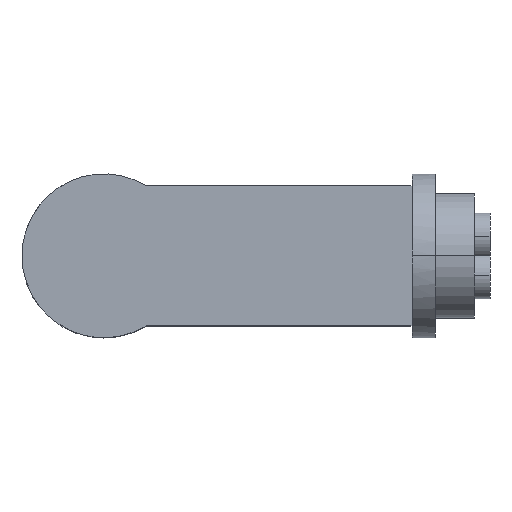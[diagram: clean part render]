
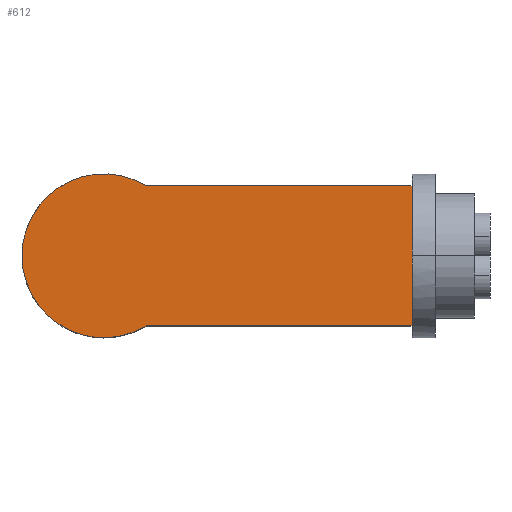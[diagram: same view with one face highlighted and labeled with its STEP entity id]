
A CAD part, top view. The second image highlights one B-rep face of the part: STEP entity #612.
In plain terms, the highlighted planar face has unit normal (0, 0, 1).
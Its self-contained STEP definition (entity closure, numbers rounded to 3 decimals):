
#22 = DIRECTION ( 'NONE',  ( 0., 1., 0. ) ) ;
#24 = CARTESIAN_POINT ( 'NONE',  ( 19.75, -4.5, 11.75 ) ) ;
#72 = DIRECTION ( 'NONE',  ( 0., 1., 0. ) ) ;
#73 = CARTESIAN_POINT ( 'NONE',  ( 19.75, -4.5, 11.75 ) ) ;
#78 = DIRECTION ( 'NONE',  ( 1., 0., 0. ) ) ;
#79 = DIRECTION ( 'NONE',  ( 0., 0., 1. ) ) ;
#80 = CARTESIAN_POINT ( 'NONE',  ( 0., 0., 11.75 ) ) ;
#90 = DIRECTION ( 'NONE',  ( 1., 0., 0. ) ) ;
#91 = CARTESIAN_POINT ( 'NONE',  ( 2.704, -4.5, 11.75 ) ) ;
#100 = DIRECTION ( 'NONE',  ( -1., 0., 0. ) ) ;
#101 = CARTESIAN_POINT ( 'NONE',  ( 19.75, 4.5, 11.75 ) ) ;
#208 = CARTESIAN_POINT ( 'NONE',  ( 19.75, 1.139, 11.75 ) ) ;
#245 = CARTESIAN_POINT ( 'NONE',  ( -5.25, 0., 11.75 ) ) ;
#248 = CARTESIAN_POINT ( 'NONE',  ( 2.704, 4.5, 11.75 ) ) ;
#249 = DIRECTION ( 'NONE',  ( 1., 0., 0. ) ) ;
#250 = DIRECTION ( 'NONE',  ( 0., 0., 1. ) ) ;
#251 = CARTESIAN_POINT ( 'NONE',  ( 0., 0., 11.75 ) ) ;
#252 = PLANE ( 'NONE',  #758 ) ;
#319 = CARTESIAN_POINT ( 'NONE',  ( 19.75, 4.5, 11.75 ) ) ;
#329 = CARTESIAN_POINT ( 'NONE',  ( 2.704, -4.5, 11.75 ) ) ;
#333 = CARTESIAN_POINT ( 'NONE',  ( 19.75, -1.139, 11.75 ) ) ;
#334 = CARTESIAN_POINT ( 'NONE',  ( 19.75, -4.5, 11.75 ) ) ;
#382 = VERTEX_POINT ( 'NONE', #334 ) ;
#383 = VERTEX_POINT ( 'NONE', #333 ) ;
#387 = VERTEX_POINT ( 'NONE', #329 ) ;
#389 = VERTEX_POINT ( 'NONE', #319 ) ;
#455 = VERTEX_POINT ( 'NONE', #248 ) ;
#467 = VERTEX_POINT ( 'NONE', #245 ) ;
#507 = VERTEX_POINT ( 'NONE', #208 ) ;
#612 = ADVANCED_FACE ( 'NONE', ( #1189 ), #252, .T. ) ;
#681 = AXIS2_PLACEMENT_3D ( 'NONE', #1230, #1286, #1283 ) ;
#707 = AXIS2_PLACEMENT_3D ( 'NONE', #80, #79, #78 ) ;
#728 = EDGE_CURVE ( 'NONE', #389, #455, #1124, .T. ) ;
#732 = EDGE_CURVE ( 'NONE', #387, #382, #1132, .T. ) ;
#735 = EDGE_CURVE ( 'NONE', #467, #387, #1138, .T. ) ;
#736 = EDGE_CURVE ( 'NONE', #383, #507, #1137, .T. ) ;
#755 = EDGE_CURVE ( 'NONE', #382, #383, #1003, .T. ) ;
#758 = AXIS2_PLACEMENT_3D ( 'NONE', #251, #250, #249 ) ;
#826 = EDGE_CURVE ( 'NONE', #455, #467, #1029, .T. ) ;
#891 = EDGE_CURVE ( 'NONE', #507, #389, #1158, .T. ) ;
#1003 = LINE ( 'NONE', #24, #1005 ) ;
#1005 = VECTOR ( 'NONE', #22, 1000. ) ;
#1029 = CIRCLE ( 'NONE', #681, 5.25 ) ;
#1124 = LINE ( 'NONE', #101, #1125 ) ;
#1125 = VECTOR ( 'NONE', #100, 1000. ) ;
#1132 = LINE ( 'NONE', #91, #1133 ) ;
#1133 = VECTOR ( 'NONE', #90, 1000. ) ;
#1137 = LINE ( 'NONE', #73, #1139 ) ;
#1138 = CIRCLE ( 'NONE', #707, 5.25 ) ;
#1139 = VECTOR ( 'NONE', #72, 1000. ) ;
#1158 = LINE ( 'NONE', #1208, #1159 ) ;
#1159 = VECTOR ( 'NONE', #1316, 1000. ) ;
#1189 = FACE_OUTER_BOUND ( 'NONE', #1389, .T. ) ;
#1208 = CARTESIAN_POINT ( 'NONE',  ( 19.75, -4.5, 11.75 ) ) ;
#1230 = CARTESIAN_POINT ( 'NONE',  ( 0., 0., 11.75 ) ) ;
#1283 = DIRECTION ( 'NONE',  ( 1., 0., 0. ) ) ;
#1286 = DIRECTION ( 'NONE',  ( 0., 0., 1. ) ) ;
#1316 = DIRECTION ( 'NONE',  ( 0., 1., 0. ) ) ;
#1389 = EDGE_LOOP ( 'NONE', ( #1492, #1414, #1435, #1434, #1401, #1400, #1399 ) ) ;
#1399 = ORIENTED_EDGE ( 'NONE', *, *, #732, .T. ) ;
#1400 = ORIENTED_EDGE ( 'NONE', *, *, #735, .T. ) ;
#1401 = ORIENTED_EDGE ( 'NONE', *, *, #826, .T. ) ;
#1414 = ORIENTED_EDGE ( 'NONE', *, *, #736, .T. ) ;
#1434 = ORIENTED_EDGE ( 'NONE', *, *, #728, .T. ) ;
#1435 = ORIENTED_EDGE ( 'NONE', *, *, #891, .T. ) ;
#1492 = ORIENTED_EDGE ( 'NONE', *, *, #755, .T. ) ;
